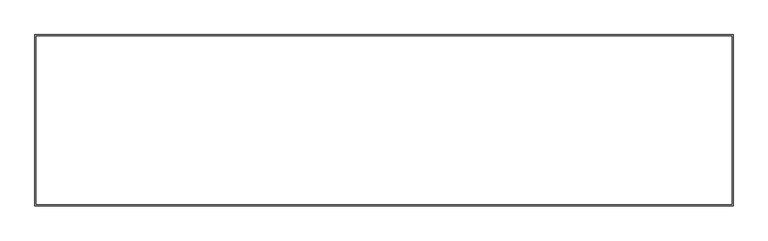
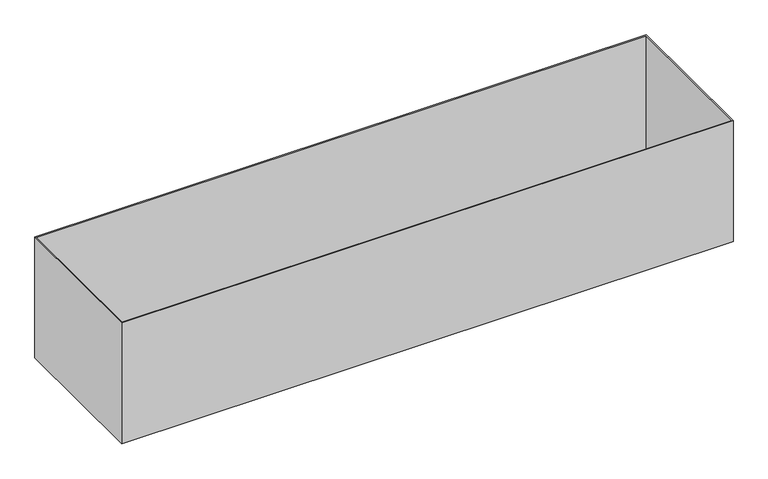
"""IFC4 building model written with IfcOpenShell, lengths in millimetres: beam geometry, Inside Insulation config-5 : Inside Insulation config-5."""

import ifcopenshell
import ifcopenshell.guid

model = None  # the IFC model being written
_history = None  # IfcOwnerHistory: only IFC2X3 demands one
_inside = {}  # id of a spatial element -> (the spatial element, [elements in it])
_under = {}  # id of a project, library or spatial element -> (it, [spatial elements below it])
_declared = {}  # id of a project -> (the project, [libraries it declares])
_typed = {}  # id of a type object -> (the type object, [elements of that type])
_made_of = {}  # id of a material, layer set ... -> (it, [elements and type objects made of it])


def new_model(schema):
    """Start an empty IFC model of exactly this schema.

    Asked for "IFC4X3", IfcOpenShell would pick the latest addendum, in which some entities
    have other attributes; the version numbers below select the first issue.
    IFC2X3 requires an IfcOwnerHistory on every rooted entity: one is made here for all.
    """
    global model, _history
    if schema == "IFC4X3":
        model = ifcopenshell.file(schema_version=(4, 3, 0, 0))
    else:
        model = ifcopenshell.file(schema=schema)
    _inside.clear()
    _under.clear()
    _declared.clear()
    _typed.clear()
    _made_of.clear()
    _history = None
    if model.schema == "IFC2X3":
        org = make("IfcOrganization", Name="unknown")
        user = make(
            "IfcPersonAndOrganization",
            ThePerson=make("IfcPerson", FamilyName="unknown"),
            TheOrganization=org,
        )
        app = make(
            "IfcApplication",
            ApplicationDeveloper=org,
            Version="unknown",
            ApplicationFullName="unknown",
            ApplicationIdentifier="unknown",
        )
        _history = make(
            "IfcOwnerHistory",
            OwningUser=user,
            OwningApplication=app,
            ChangeAction="ADDED",
            CreationDate=0,
        )
    return model


def make(cls, **values):
    """One entity of the class cls with the attributes given. An attribute that is None is left unset."""
    return model.create_entity(
        cls, **{name: value for name, value in values.items() if value is not None}
    )


def rooted(cls, **values):
    """An entity with a GlobalId (a new one), such as an element, a storey or a relation."""
    return make(cls, GlobalId=ifcopenshell.guid.new(), OwnerHistory=_history, **values)


def si_unit(unit_type, name, prefix=None):
    """IfcSIUnit, for example si_unit("LENGTHUNIT", "METRE", prefix="MILLI")."""
    return make("IfcSIUnit", UnitType=unit_type, Prefix=prefix, Name=name)


def assignment(units):
    """IfcUnitAssignment: the units of a project."""
    return None if units is None else make("IfcUnitAssignment", Units=units)


def point(xyz):
    """IfcCartesianPoint."""
    return None if xyz is None else make("IfcCartesianPoint", Coordinates=xyz)


def direction(xyz):
    """IfcDirection."""
    return None if xyz is None else make("IfcDirection", DirectionRatios=xyz)


def frame(location, z_axis=None, x_axis=None):
    """IfcAxis2Placement3D, a coordinate frame: its origin and axes. An axis left out is left unset."""
    return make(
        "IfcAxis2Placement3D",
        Location=point(location),
        Axis=direction(z_axis),
        RefDirection=direction(x_axis),
    )


def origin():
    """The frame at (0, 0, 0) with its axes left unset."""
    return frame((0.0, 0.0, 0.0))


def place(relative_to, where):
    """IfcLocalPlacement: puts the frame where relative to a parent placement (None: the world)."""
    return make(
        "IfcLocalPlacement", PlacementRelTo=relative_to, RelativePlacement=where
    )


def context(
    kind, dimensions, precision=None, world=None, true_north=None, identifier=None
):
    """IfcGeometricRepresentationContext, for example the 3D "Model" context."""
    return make(
        "IfcGeometricRepresentationContext",
        ContextIdentifier=identifier,
        ContextType=kind,
        CoordinateSpaceDimension=dimensions,
        Precision=precision,
        WorldCoordinateSystem=world,
        TrueNorth=true_north,
    )


def project(units=None, contexts=None):
    """IfcProject with its units and contexts."""
    return rooted(
        "IfcProject",
        Name="project",
        RepresentationContexts=contexts,
        UnitsInContext=assignment(units),
    )


def spatial(cls, under=None, at=None, **own):
    """A site, building, storey or space (cls), placed at a placement, below another one or the project."""
    s = rooted(cls, ObjectPlacement=at, **own)
    if under is not None:
        _under.setdefault(under.id(), (under, []))[1].append(s)
    return s


def polyline(points):
    """IfcPolyline through the points."""
    return make("IfcPolyline", Points=[point(p) for p in points])


def outline(outer, holes=None, kind="AREA"):
    """IfcArbitraryClosedProfileDef: a profile drawn as a closed curve; with holes, ...WithVoids."""
    if holes is None:
        return make("IfcArbitraryClosedProfileDef", ProfileType=kind, OuterCurve=outer)
    return make(
        "IfcArbitraryProfileDefWithVoids",
        ProfileType=kind,
        OuterCurve=outer,
        InnerCurves=holes,
    )


def extrude(swept, where, along, depth):
    """IfcExtrudedAreaSolid: the profile swept, set in the frame where, extruded along a direction by depth."""
    return make(
        "IfcExtrudedAreaSolid",
        SweptArea=swept,
        Position=where,
        ExtrudedDirection=direction(along),
        Depth=depth,
    )


def shape(context_of_items, identifier, shape_type, items):
    """IfcShapeRepresentation: the items that make up one representation, for example the "Body"."""
    return make(
        "IfcShapeRepresentation",
        ContextOfItems=context_of_items,
        RepresentationIdentifier=identifier,
        RepresentationType=shape_type,
        Items=items,
    )


def source(mapping_origin, context_of_items, identifier, shape_type, items):
    """IfcRepresentationMap: a shape defined once, which mapped items show again and again."""
    return make(
        "IfcRepresentationMap",
        MappingOrigin=mapping_origin,
        MappedRepresentation=shape(context_of_items, identifier, shape_type, items),
    )


def transform(
    local_origin,
    x_axis=None,
    y_axis=None,
    z_axis=None,
    scale=None,
    scale2=None,
    scale3=None,
    uniform=True,
):
    """IfcCartesianTransformationOperator3D, or its non-uniform kind. x_axis, y_axis, z_axis: its Axis1, 2, 3."""
    if uniform:
        return make(
            "IfcCartesianTransformationOperator3D",
            Axis1=direction(x_axis),
            Axis2=direction(y_axis),
            LocalOrigin=point(local_origin),
            Scale=scale,
            Axis3=direction(z_axis),
        )
    return make(
        "IfcCartesianTransformationOperator3DnonUniform",
        Axis1=direction(x_axis),
        Axis2=direction(y_axis),
        LocalOrigin=point(local_origin),
        Scale=scale,
        Axis3=direction(z_axis),
        Scale2=scale2,
        Scale3=scale3,
    )


def mapped(mapping_source, mapping_target):
    """IfcMappedItem: shows the shape of a source again, moved by a transform."""
    return make(
        "IfcMappedItem", MappingSource=mapping_source, MappingTarget=mapping_target
    )


def made_of(thing, what):
    """Note that an element or type object is made of a material, layer set ...; save() writes the relation."""
    if what is not None:
        _made_of.setdefault(what.id(), (what, []))[1].append(thing)
    return thing


def element(
    cls,
    number,
    at=None,
    inside=None,
    cuts=None,
    type_object=None,
    material=None,
    context=None,
    identifier="Body",
    shape_type=None,
    held_by="IfcProductDefinitionShape",
    body=None,
    shapes=None,
    **own,
):
    """One element of the class cls, such as IfcWall. Its Tag is "e" and its number.

    at: its placement. inside: the storey or other place that contains it. cuts: it is an
    opening in that element (IfcRelVoidsElement). A single representation is given by context,
    identifier, shape_type and body (its items); several are given by shapes. held_by: the class
    of the entity that holds the representations. save() writes the other relations.
    """
    e = rooted(cls, Tag="e%d" % number, ObjectPlacement=at, **own)
    if body is not None:
        shapes = [shape(context, identifier, shape_type, body)]
    if shapes is not None:
        e.Representation = make(held_by, Representations=shapes)
    if inside is not None:
        _inside.setdefault(inside.id(), (inside, []))[1].append(e)
    if cuts is not None:
        rooted(
            "IfcRelVoidsElement", RelatingBuildingElement=cuts, RelatedOpeningElement=e
        )
    if type_object is not None:
        _typed.setdefault(type_object.id(), (type_object, []))[1].append(e)
    return made_of(e, material)


def aggregate(whole, parts):
    """IfcRelAggregates: a whole, such as a stair, and the parts it consists of."""
    return rooted("IfcRelAggregates", RelatingObject=whole, RelatedObjects=parts)


def save(model, path):
    """Write the relations noted so far, then the file.

    IfcRelAggregates (storeys below a building ...), IfcRelContainedInSpatialStructure (elements
    in a storey), IfcRelDefinesByType, IfcRelAssociatesMaterial and IfcRelDeclares: one each for
    every whole, place, type object, material and project.
    """
    for whole, parts in _under.values():
        aggregate(whole, parts)
    for where, things in _inside.values():
        rooted(
            "IfcRelContainedInSpatialStructure",
            RelatedElements=things,
            RelatingStructure=where,
        )
    for kind, things in _typed.values():
        rooted("IfcRelDefinesByType", RelatedObjects=things, RelatingType=kind)
    for what, things in _made_of.values():
        rooted("IfcRelAssociatesMaterial", RelatedObjects=things, RelatingMaterial=what)
    for by, libraries in _declared.values():
        rooted("IfcRelDeclares", RelatingContext=by, RelatedDefinitions=libraries)
    model.write(path)


def beam_685e67e5(model_context):
    return source(origin(), model_context, "Body", "SweptSolid", [
        extrude(outline(polyline([(13981.4066846, 3351.5780351), (13981.4066846, 28.5958861), (438.3341198, 28.5958861), (438.3341198, 3351.5780351), (13981.4066846, 3351.5780351)]), holes=[polyline([(13952.4066846, 57.5958861), (13952.4066846, 3322.2687211), (466.8899746, 3322.2687211), (466.8899746, 57.5958861), (13952.4066846, 57.5958861)])]), frame((0.0, 0.0, 424.0), z_axis=(0.0, 0.0, 1.0), x_axis=(1.0, 0.0, 0.0)), (0.0, 0.0, 1.0), 2828.0),
    ])


if __name__ == "__main__":
    model = new_model("IFC4")
    model_context = context("Model", 3, world=origin())
    ifc_project = project(units=[si_unit("LENGTHUNIT", "METRE", prefix="MILLI")], contexts=[model_context])
    site = spatial("IfcSite", under=ifc_project)
    building = spatial("IfcBuilding", under=site)
    placement = place(None, origin())
    beam_shape = beam_685e67e5(model_context)
    element("IfcBeam", 1, ObjectType="Inside Insulation config-5 : Inside Insulation config-5", at=placement, inside=building, context=model_context, shape_type="MappedRepresentation", body=[
        mapped(beam_shape, transform((0.0, 0.0, 0.0), x_axis=(1.0, 0.0, 0.0), y_axis=(0.0, 1.0, 0.0), z_axis=(0.0, 0.0, 1.0))),
    ])
    save(model, "model.ifc")
